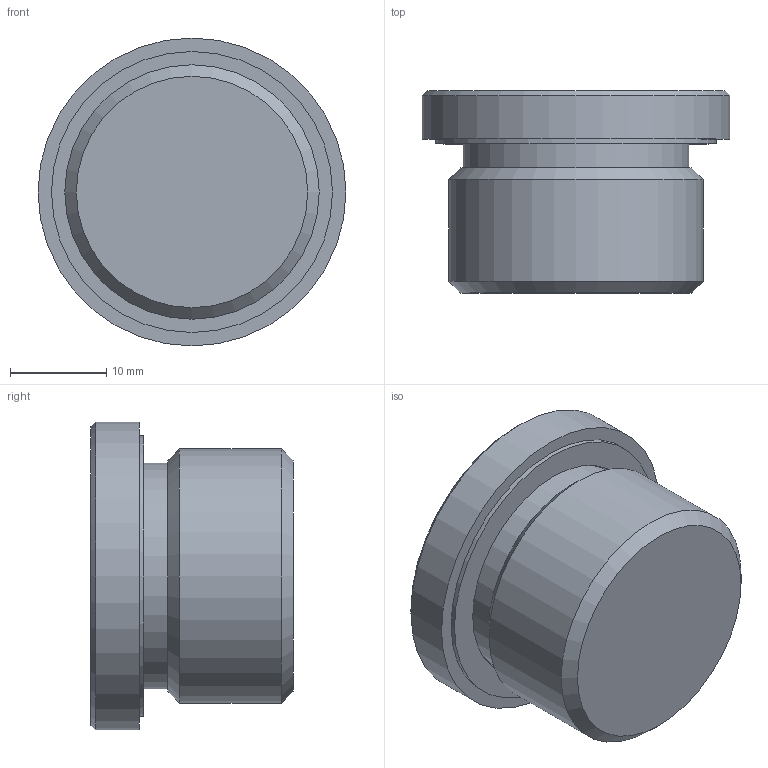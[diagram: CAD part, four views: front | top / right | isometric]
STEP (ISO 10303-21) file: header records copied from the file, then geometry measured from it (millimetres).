
FILE_DESCRIPTION( ( 'STEP AP203' ), '1' );
FILE_NAME( 'C:/Temp/Ganter_Step_05_03_2020/data/3_5/gn749/gn749_b/Threaded plug GN 749-G3_4-B.stp', '2020-03-12T13:41:41', ( 'License CC BY-ND 4.0' ), ( 'CADENAS' ), ' ', 'PARTsolutions', ' ' );
FILE_SCHEMA( ( 'CONFIG_CONTROL_DESIGN' ) );
Length unit declared in the file: millimetre
Products named in the file (1): _Threaded plug GN 749-G3/4-B
Bounding box: 32 x 21 x 32 mm (x, y, z)
Volume: 11314.9 mm3; surface area: 3954.1 mm2
Topology: 1 solids, 1 shells, 21 faces, 41 edges, 27 vertices
Faces by surface type: plane 13, cylinder 5, cone 3
Full cylindrical faces by diameter (mm): 23.441 x1, 23.841 x1, 26.441 x1, 29.2 x1, 32 x1
Entity records: 526 total; most frequent: DIRECTION 88, CARTESIAN_POINT 78, ORIENTED_EDGE 62, AXIS2_PLACEMENT_3D 35, EDGE_LOOP 34, EDGE_CURVE 31, FACE_OUTER_BOUND 26, VERTEX_POINT 25
